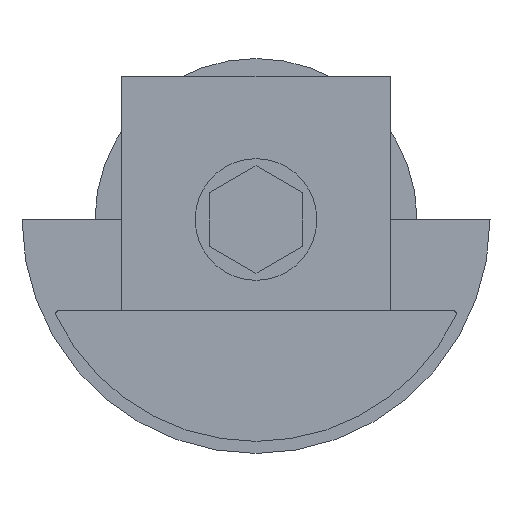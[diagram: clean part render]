
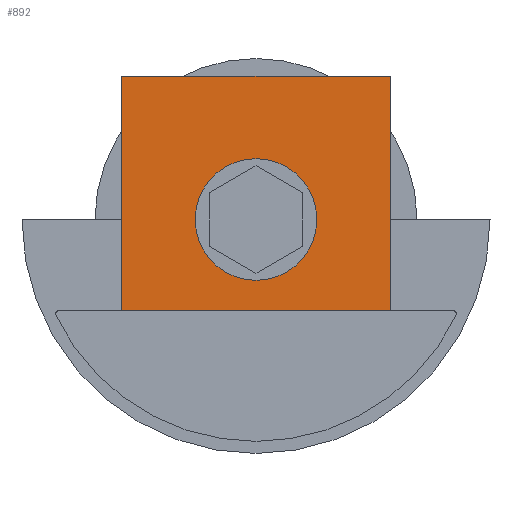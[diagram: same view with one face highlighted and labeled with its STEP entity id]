
A CAD part, left-side view. The second image highlights one B-rep face of the part: STEP entity #892.
In plain terms, the highlighted planar face has unit normal (-1, 0, 0).
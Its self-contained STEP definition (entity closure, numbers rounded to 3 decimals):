
#8 = VERTEX_POINT ( 'NONE', #1544 ) ;
#18 = AXIS2_PLACEMENT_3D ( 'NONE', #475, #304, #1228 ) ;
#29 = DIRECTION ( 'NONE',  ( 0., 0., 1. ) ) ;
#85 = CIRCLE ( 'NONE', #18, 4. ) ;
#304 = DIRECTION ( 'NONE',  ( -1., 0., 0. ) ) ;
#312 = VERTEX_POINT ( 'NONE', #520 ) ;
#323 = EDGE_CURVE ( 'NONE', #1436, #1207, #1575, .T. ) ;
#457 = ORIENTED_EDGE ( 'NONE', *, *, #1699, .T. ) ;
#458 = FACE_BOUND ( 'NONE', #1777, .T. ) ;
#471 = ORIENTED_EDGE ( 'NONE', *, *, #1172, .F. ) ;
#473 = DIRECTION ( 'NONE',  ( 0., -1., 0. ) ) ;
#475 = CARTESIAN_POINT ( 'NONE',  ( -79., -32.7, 32.7 ) ) ;
#485 = LINE ( 'NONE', #1682, #1004 ) ;
#486 = ORIENTED_EDGE ( 'NONE', *, *, #1284, .F. ) ;
#520 = CARTESIAN_POINT ( 'NONE',  ( -79., -32.7, 28.7 ) ) ;
#621 = FACE_OUTER_BOUND ( 'NONE', #1287, .T. ) ;
#689 = ORIENTED_EDGE ( 'NONE', *, *, #1554, .F. ) ;
#782 = DIRECTION ( 'NONE',  ( 0., 1., 0. ) ) ;
#821 = VECTOR ( 'NONE', #29, 1000. ) ;
#836 = CARTESIAN_POINT ( 'NONE',  ( -79., -51.45, 52.7 ) ) ;
#847 = AXIS2_PLACEMENT_3D ( 'NONE', #1498, #1675, #473 ) ;
#884 = AXIS2_PLACEMENT_3D ( 'NONE', #1141, #984, #999 ) ;
#892 = ADVANCED_FACE ( 'NONE', ( #458, #621 ), #1063, .F. ) ;
#919 = VERTEX_POINT ( 'NONE', #1649 ) ;
#943 = CARTESIAN_POINT ( 'NONE',  ( -79., -13.95, 52.7 ) ) ;
#960 = CARTESIAN_POINT ( 'NONE',  ( -79., -60.696, 52.7 ) ) ;
#984 = DIRECTION ( 'NONE',  ( -1., 0., 0. ) ) ;
#999 = DIRECTION ( 'NONE',  ( 0., 0., -1. ) ) ;
#1004 = VECTOR ( 'NONE', #1702, 1000. ) ;
#1063 = PLANE ( 'NONE',  #847 ) ;
#1071 = CIRCLE ( 'NONE', #884, 4. ) ;
#1119 = ORIENTED_EDGE ( 'NONE', *, *, #323, .F. ) ;
#1141 = CARTESIAN_POINT ( 'NONE',  ( -79., -32.7, 32.7 ) ) ;
#1172 = EDGE_CURVE ( 'NONE', #1849, #1436, #485, .T. ) ;
#1207 = VERTEX_POINT ( 'NONE', #943 ) ;
#1228 = DIRECTION ( 'NONE',  ( 0., 0., -1. ) ) ;
#1281 = DIRECTION ( 'NONE',  ( 0., 0., -1. ) ) ;
#1284 = EDGE_CURVE ( 'NONE', #919, #1849, #1715, .T. ) ;
#1287 = EDGE_LOOP ( 'NONE', ( #457, #1119, #471, #486 ) ) ;
#1292 = VECTOR ( 'NONE', #1281, 1000. ) ;
#1390 = LINE ( 'NONE', #960, #1586 ) ;
#1436 = VERTEX_POINT ( 'NONE', #1917 ) ;
#1460 = CARTESIAN_POINT ( 'NONE',  ( -79., -51.45, 20. ) ) ;
#1498 = CARTESIAN_POINT ( 'NONE',  ( -79., -60.696, 52.7 ) ) ;
#1544 = CARTESIAN_POINT ( 'NONE',  ( -79., -32.7, 36.7 ) ) ;
#1554 = EDGE_CURVE ( 'NONE', #8, #312, #85, .T. ) ;
#1575 = LINE ( 'NONE', #1863, #821 ) ;
#1586 = VECTOR ( 'NONE', #782, 1000. ) ;
#1649 = CARTESIAN_POINT ( 'NONE',  ( -79., -51.45, 52.7 ) ) ;
#1675 = DIRECTION ( 'NONE',  ( 1., 0., 0. ) ) ;
#1682 = CARTESIAN_POINT ( 'NONE',  ( -79., -60.696, 20. ) ) ;
#1699 = EDGE_CURVE ( 'NONE', #919, #1207, #1390, .T. ) ;
#1702 = DIRECTION ( 'NONE',  ( 0., 1., 0. ) ) ;
#1715 = LINE ( 'NONE', #836, #1292 ) ;
#1777 = EDGE_LOOP ( 'NONE', ( #1878, #689 ) ) ;
#1849 = VERTEX_POINT ( 'NONE', #1460 ) ;
#1863 = CARTESIAN_POINT ( 'NONE',  ( -79., -13.95, 20. ) ) ;
#1878 = ORIENTED_EDGE ( 'NONE', *, *, #1963, .F. ) ;
#1917 = CARTESIAN_POINT ( 'NONE',  ( -79., -13.95, 20. ) ) ;
#1963 = EDGE_CURVE ( 'NONE', #312, #8, #1071, .T. ) ;
